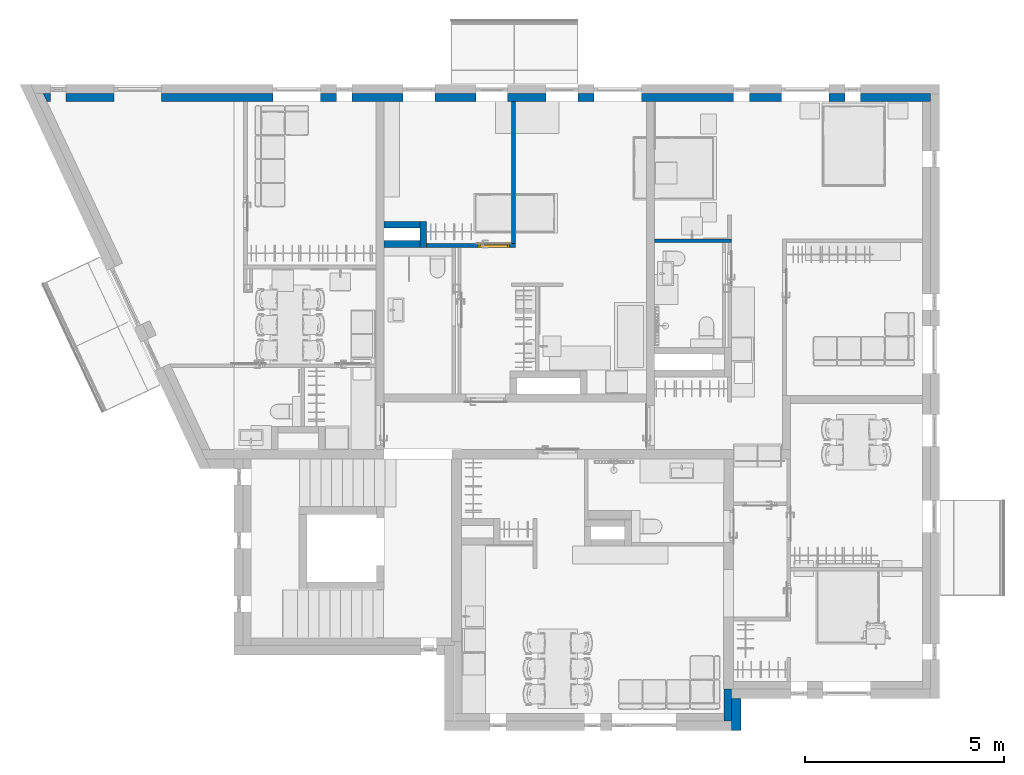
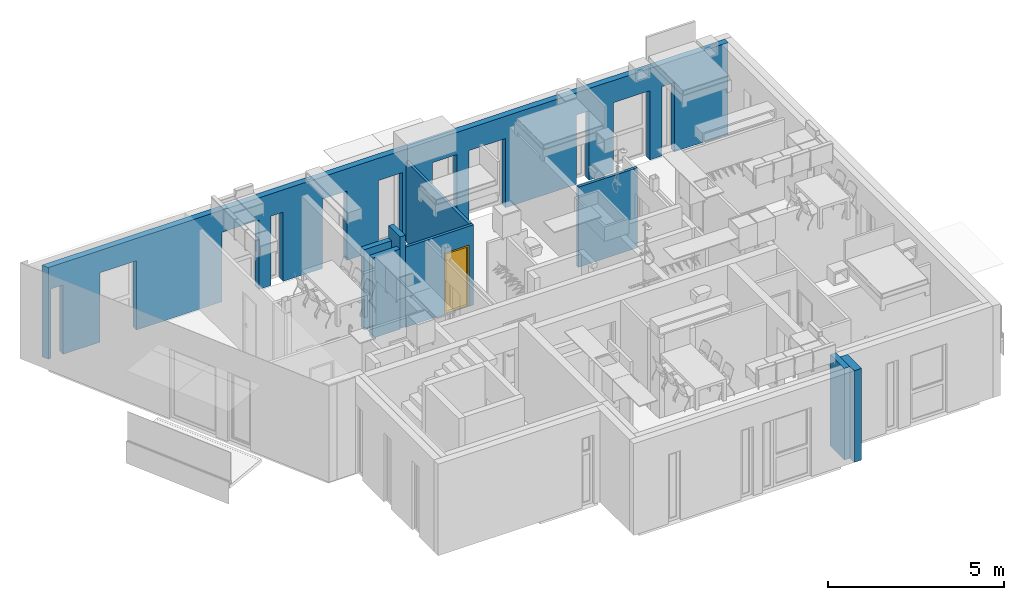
# One storey, part 6 of 68: 9 walls, 1 door, 12 openings.
"""IFC2X3 building model written with IfcOpenShell, lengths in millimetres."""

from ifc_helpers import new_model, entity, si_unit, converted_unit, direction, frame, frame_2d, origin, place, context, subcontext, project, spatial, polyline, rectangle, outline, extrude, clip, bounded_halfspace, faceted_brep, source, transform, mapped, material, layer, layer_set, layer_usage, type_object, type_shapes, element, fill, save


model = new_model("IFC2X3")

# Units and contexts
model_context = context("Model", 3, precision=0.01, world=origin(), true_north=direction((6.123233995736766e-17, 1.0)))
plan_context = context("Plan", 3, precision=0.01, world=origin(), true_north=direction((6.123233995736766e-17, 1.0)))
body_context = subcontext(model_context, "Body", "Model", "MODEL_VIEW")
ifc_project = project(units=[si_unit("LENGTHUNIT", "METRE", prefix="MILLI"), converted_unit("PLANEANGLEUNIT", "DEGREE", entity("IfcPlaneAngleMeasure", 0.017453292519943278), si_unit("PLANEANGLEUNIT", "RADIAN"), dimensions=[0, 0, 0, 0, 0, 0, 0]), si_unit("AREAUNIT", "SQUARE_METRE")], contexts=[model_context, plan_context])

# Site, building, storey
site_placement = place(None, origin())
site = spatial("IfcSite", under=ifc_project, at=site_placement, Name="Default", CompositionType="ELEMENT")
building_placement = place(site_placement, origin())
building = spatial("IfcBuilding", under=site, at=building_placement, CompositionType="ELEMENT")
storey_placement = place(building_placement, frame((0.0, 0.0, 6295.0)))
storey = spatial("IfcBuildingStorey", under=building, at=storey_placement, Name="3K", CompositionType="ELEMENT", Elevation=6294.999999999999)

# Wall, openings
ifc_material_1 = material(Name="_K. Väisviimistlus. Krohv. Valge")
ifc_layer_1 = layer(ifc_material_1, 5.0)
ifc_material_2 = material(Name="_K. Müüritis. Väikeplokk. Betoon-õõnesplokk")
ifc_layer_2 = layer(ifc_material_2, 190.00000000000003)
ifc_layer_3 = layer(ifc_material_1, 5.0)
ifc_layer_set_1 = layer_set([ifc_layer_1, ifc_layer_2, ifc_layer_3], Name="Basic Wall:SS-01. 190")
ifc_layer_usage_1 = layer_usage(ifc_layer_set_1, "AXIS2", "NEGATIVE", 100.00000000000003)
wall_type_1 = type_object("IfcWallType", Name="Basic Wall:SS-01. 190", PredefinedType="STANDARD", material=ifc_layer_set_1)
wall_1_placement = place(storey_placement, frame((-5235.819995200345, 15500.0, 0.0)))
wall_1 = element("IfcWallStandardCase", 1, at=wall_1_placement, inside=storey, type_object=wall_type_1, material=ifc_layer_usage_1, Name="Basic Wall:SS-01. 190", ObjectType="Basic Wall:SS-01. 190", context=body_context, shape_type="SweptSolid", body=[
    extrude(outline(polyline([(93.74999994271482, -100.0), (22135.819995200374, -100.0), (22335.81999520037, -100.0), (22335.81999520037, 100.0), (0.0, 100.0), (93.74999994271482, -100.0)])), origin(), (0.0, 0.0, 1.0), 3170.000076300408),
])
opening_1_placement = place(wall_1_placement, frame((5235.819995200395, -15500.0, 0.0)))
element("IfcOpeningElement", 2, at=opening_1_placement, cuts=wall_1, Name="Basic Wall:SS-01. 190", ObjectType="Opening", context=body_context, shape_type="Brep", body=[
    faceted_brep([(-2255.0, 15850.0, 2400.0), (-2255.0, 15156.0, 2400.0), (-2255.0, 15156.0, 0.0), (-2255.0, 15740.0, 0.0), (-2255.0, 15750.0, 0.0), (-2255.0, 15850.0, 0.0), (-3455.0, 15850.0, 2400.0), (-3455.0, 15156.0, 2400.0), (-3455.0, 15850.0, 0.0), (-3455.0, 15750.0, 0.0), (-3455.0, 15740.0, 0.0), (-3455.0, 15156.0, 0.0)], [[[0, 1, 2, 3, 4, 5]], [[6, 7, 1, 0]], [[8, 9, 10, 11, 7, 6]], [[5, 4, 3, 2, 11, 10, 9, 8]], [[6, 0, 5, 8]], [[7, 11, 2, 1]]]),
])
opening_2_placement = place(wall_1_placement, frame((5235.819995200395, -15500.0, 0.0)))
element("IfcOpeningElement", 3, at=opening_2_placement, cuts=wall_1, Name="Basic Wall:SS-01. 190", ObjectType="Opening", context=body_context, shape_type="Brep", body=[
    faceted_brep([(1745.0, 15850.0, 2400.0), (1745.0, 15156.0, 2400.0), (1745.0, 15156.0, 0.0), (1745.0, 15740.0, 0.0), (1745.0, 15750.0, 0.0), (1745.0, 15850.0, 0.0), (545.0, 15850.0, 2400.0), (545.0, 15156.0, 2400.0), (545.0, 15850.0, 0.0), (545.0, 15750.0, 0.0), (545.0, 15740.0, 0.0), (545.0, 15156.0, 0.0)], [[[0, 1, 2, 3, 4, 5]], [[6, 7, 1, 0]], [[8, 9, 10, 11, 7, 6]], [[5, 4, 3, 2, 11, 10, 9, 8]], [[6, 0, 5, 8]], [[7, 11, 2, 1]]]),
])
opening_3_placement = place(wall_1_placement, frame((5235.819995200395, -15500.0, 0.0)))
element("IfcOpeningElement", 4, at=opening_3_placement, cuts=wall_1, Name="Basic Wall:SS-01. 190", ObjectType="Opening", context=body_context, shape_type="Brep", body=[
    faceted_brep([(4625.0, 15850.0, 2400.0), (4625.0, 15156.0, 2400.0), (4625.0, 15156.0, 0.0), (4625.0, 15740.0, 0.0), (4625.0, 15750.0, 0.0), (4625.0, 15850.0, 0.0), (3825.0, 15850.0, 2400.0), (3825.0, 15156.0, 2400.0), (3825.0, 15850.0, 0.0), (3825.0, 15750.0, 0.0), (3825.0, 15740.0, 0.0), (3825.0, 15156.0, 0.0)], [[[0, 1, 2, 3, 4, 5]], [[6, 7, 1, 0]], [[8, 9, 10, 11, 7, 6]], [[5, 4, 3, 2, 11, 10, 9, 8]], [[6, 0, 5, 8]], [[7, 11, 2, 1]]]),
])
opening_4_placement = place(wall_1_placement, frame((5235.819995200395, -15500.0, 0.0)))
element("IfcOpeningElement", 5, at=opening_4_placement, cuts=wall_1, Name="Basic Wall:SS-01. 190", ObjectType="Opening", context=body_context, shape_type="Brep", body=[
    faceted_brep([(6455.0, 15850.0, 2400.0), (6455.0, 15156.0, 2400.0), (6455.0, 15156.0, 0.0), (6455.0, 15740.0, 0.0), (6455.0, 15750.0, 0.0), (6455.0, 15850.0, 0.0), (5655.0, 15850.0, 2400.0), (5655.0, 15156.0, 2400.0), (5655.0, 15850.0, 0.0), (5655.0, 15750.0, 0.0), (5655.0, 15740.0, 0.0), (5655.0, 15156.0, 0.0)], [[[0, 1, 2, 3, 4, 5]], [[6, 7, 1, 0]], [[8, 9, 10, 11, 7, 6]], [[5, 4, 3, 2, 11, 10, 9, 8]], [[6, 0, 5, 8]], [[7, 11, 2, 1]]]),
])
opening_5_placement = place(wall_1_placement, frame((5235.819995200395, -15500.0, 0.0)))
element("IfcOpeningElement", 6, at=opening_5_placement, cuts=wall_1, Name="Basic Wall:SS-01. 190", ObjectType="Opening", context=body_context, shape_type="Brep", body=[
    faceted_brep([(8225.0, 15850.0, 2400.0), (8225.0, 15156.0, 2400.0), (8225.0, 15156.0, 0.0), (8225.0, 15740.0, 0.0), (8225.0, 15750.0, 0.0), (8225.0, 15850.0, 0.0), (7425.0, 15850.0, 2400.0), (7425.0, 15156.0, 2400.0), (7425.0, 15850.0, 0.0), (7425.0, 15750.0, 0.0), (7425.0, 15740.0, 0.0), (7425.0, 15156.0, 0.0)], [[[0, 1, 2, 3, 4, 5]], [[6, 7, 1, 0]], [[8, 9, 10, 11, 7, 6]], [[5, 4, 3, 2, 11, 10, 9, 8]], [[6, 0, 5, 8]], [[7, 11, 2, 1]]]),
])
opening_6_placement = place(wall_1_placement, frame((5235.819995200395, -15500.0, 0.0)))
element("IfcOpeningElement", 7, at=opening_6_placement, cuts=wall_1, Name="Basic Wall:SS-01. 190", ObjectType="Opening", context=body_context, shape_type="Brep", body=[
    faceted_brep([(9825.0, 15850.0, 2400.0), (9825.0, 15156.0, 2400.0), (9825.0, 15156.0, 0.0), (9825.0, 15740.0, 0.0), (9825.0, 15750.0, 0.0), (9825.0, 15850.0, 0.0), (8625.0, 15850.0, 2400.0), (8625.0, 15156.0, 2400.0), (8625.0, 15850.0, 0.0), (8625.0, 15750.0, 0.0), (8625.0, 15740.0, 0.0), (8625.0, 15156.0, 0.0)], [[[0, 1, 2, 3, 4, 5]], [[6, 7, 1, 0]], [[8, 9, 10, 11, 7, 6]], [[5, 4, 3, 2, 11, 10, 9, 8]], [[6, 0, 5, 8]], [[7, 11, 2, 1]]]),
])
opening_7_placement = place(wall_1_placement, frame((5235.819995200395, -15500.0, 0.0)))
element("IfcOpeningElement", 8, at=opening_7_placement, cuts=wall_1, Name="Basic Wall:SS-01. 190", ObjectType="Opening", context=body_context, shape_type="Brep", body=[
    faceted_brep([(14545.0, 15850.0, 2400.0), (14545.0, 15156.0, 2400.0), (14545.0, 15156.0, 0.0), (14545.0, 15740.0, 0.0), (14545.0, 15750.0, 0.0), (14545.0, 15850.0, 0.0), (13345.0, 15850.0, 2400.0), (13345.0, 15156.0, 2400.0), (13345.0, 15850.0, 0.0), (13345.0, 15750.0, 0.0), (13345.0, 15740.0, 0.0), (13345.0, 15156.0, 0.0)], [[[0, 1, 2, 3, 4, 5]], [[6, 7, 1, 0]], [[8, 9, 10, 11, 7, 6]], [[5, 4, 3, 2, 11, 10, 9, 8]], [[6, 0, 5, 8]], [[7, 11, 2, 1]]]),
])
opening_8_placement = place(wall_1_placement, frame((5235.819995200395, -15500.0, 0.0)))
element("IfcOpeningElement", 9, at=opening_8_placement, cuts=wall_1, Name="Basic Wall:SS-01. 190", ObjectType="Opening", context=body_context, shape_type="Brep", body=[
    faceted_brep([(-4655.0, 15850.0, 2400.0), (-4655.0, 15156.0, 2400.0), (-4655.0, 15156.0, 0.0), (-4655.0, 15740.0, 0.0), (-4655.0, 15750.0, 0.0), (-4655.0, 15850.0, 0.0), (-5055.0, 15850.0, 2400.0), (-5055.0, 15156.0, 2400.0), (-5055.0, 15850.0, 0.0), (-5055.0, 15750.0, 0.0), (-5055.0, 15740.0, 0.0), (-5055.0, 15156.0, 0.0)], [[[0, 1, 2, 3, 4, 5]], [[6, 7, 1, 0]], [[8, 9, 10, 11, 7, 6]], [[5, 4, 3, 2, 11, 10, 9, 8]], [[6, 0, 5, 8]], [[7, 11, 2, 1]]]),
])
opening_9_placement = place(wall_1_placement, frame((5235.819995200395, -15500.0, 0.0)))
element("IfcOpeningElement", 10, at=opening_9_placement, cuts=wall_1, Name="Basic Wall:SS-01. 190", ObjectType="Opening", context=body_context, shape_type="Brep", body=[
    faceted_brep([(2545.0, 15850.0, 2400.0), (2545.0, 15156.0, 2400.0), (2545.0, 15156.0, 0.0), (2545.0, 15740.0, 0.0), (2545.0, 15750.0, 0.0), (2545.0, 15850.0, 0.0), (2145.0, 15850.0, 2400.0), (2145.0, 15156.0, 2400.0), (2145.0, 15850.0, 0.0), (2145.0, 15750.0, 0.0), (2145.0, 15740.0, 0.0), (2145.0, 15156.0, 0.0)], [[[0, 1, 2, 3, 4, 5]], [[6, 7, 1, 0]], [[8, 9, 10, 11, 7, 6]], [[5, 4, 3, 2, 11, 10, 9, 8]], [[6, 0, 5, 8]], [[7, 11, 2, 1]]]),
])
opening_10_placement = place(wall_1_placement, frame((5235.819995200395, -15500.0, 0.0)))
element("IfcOpeningElement", 11, at=opening_10_placement, cuts=wall_1, Name="Basic Wall:SS-01. 190", ObjectType="Opening", context=body_context, shape_type="Brep", body=[
    faceted_brep([(12545.0, 15850.0, 2400.0), (12545.0, 15156.0, 2400.0), (12545.0, 15156.0, 0.0), (12545.0, 15740.0, 0.0), (12545.0, 15750.0, 0.0), (12545.0, 15850.0, 0.0), (12145.0, 15850.0, 2400.0), (12145.0, 15156.0, 2400.0), (12145.0, 15850.0, 0.0), (12145.0, 15750.0, 0.0), (12145.0, 15740.0, 0.0), (12145.0, 15156.0, 0.0)], [[[0, 1, 2, 3, 4, 5]], [[6, 7, 1, 0]], [[8, 9, 10, 11, 7, 6]], [[5, 4, 3, 2, 11, 10, 9, 8]], [[6, 0, 5, 8]], [[7, 11, 2, 1]]]),
])
opening_11_placement = place(wall_1_placement, frame((5235.819995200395, -15500.0, 0.0)))
element("IfcOpeningElement", 12, at=opening_11_placement, cuts=wall_1, Name="Basic Wall:SS-01. 190", ObjectType="Opening", context=body_context, shape_type="Brep", body=[
    faceted_brep([(15345.0, 15850.0, 2400.0), (15345.0, 15156.0, 2400.0), (15345.0, 15156.0, 0.0), (15345.0, 15740.0, 0.0), (15345.0, 15750.0, 0.0), (15345.0, 15850.0, 0.0), (14945.0, 15850.0, 2400.0), (14945.0, 15156.0, 2400.0), (14945.0, 15850.0, 0.0), (14945.0, 15750.0, 0.0), (14945.0, 15740.0, 0.0), (14945.0, 15156.0, 0.0)], [[[0, 1, 2, 3, 4, 5]], [[6, 7, 1, 0]], [[8, 9, 10, 11, 7, 6]], [[5, 4, 3, 2, 11, 10, 9, 8]], [[6, 0, 5, 8]], [[7, 11, 2, 1]]]),
])

# Walls
ifc_layer_4 = layer(ifc_material_2, 190.00000000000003)
ifc_layer_set_2 = layer_set([ifc_layer_4], Name="Basic Wall:Columbia 190mm")
ifc_layer_usage_2 = layer_usage(ifc_layer_set_2, "AXIS2", "NEGATIVE", 95.00000000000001)
wall_type_2 = type_object("IfcWallType", Name="Basic Wall:Columbia 190mm", PredefinedType="STANDARD", material=ifc_layer_set_2)
wall_2_placement = place(storey_placement, frame((11995.0, 610.0, 0.0), z_axis=(0.0, 0.0, 1.0), x_axis=(0.0, -1.0, 0.0)))
element("IfcWallStandardCase", 13, at=wall_2_placement, inside=storey, type_object=wall_type_2, material=ifc_layer_usage_2, Name="Basic Wall:Columbia 190mm", ObjectType="Basic Wall:Columbia 190mm", context=body_context, shape_type="SweptSolid", body=[
    extrude(rectangle(XDim=799.9999999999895, YDim=190.0000000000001, at=frame_2d((399.99999999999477, 0.0), x_axis=(-1.0, 0.0))), origin(), (0.0, 0.0, 1.0), 3169.999999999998),
])
ifc_layer_5 = layer(ifc_material_1, 10.0)
ifc_material_3 = material(Name="_K. Soojustus. EPS Silver")
ifc_layer_6 = layer(ifc_material_3, 230.0)
ifc_layer_set_3 = layer_set([ifc_layer_5, ifc_layer_6], Name="Basic Wall:VS-01")
ifc_layer_usage_3 = layer_usage(ifc_layer_set_3, "AXIS2", "NEGATIVE", 120.0)
wall_type_3 = type_object("IfcWallType", Name="Basic Wall:VS-01", PredefinedType="STANDARD", material=ifc_layer_set_3)
wall_3_placement = place(storey_placement, frame((12210.0, 370.0, 0.0), z_axis=(0.0, 0.0, 1.0), x_axis=(0.0, -1.0, 0.0)))
element("IfcWallStandardCase", 14, at=wall_3_placement, inside=storey, type_object=wall_type_3, material=ifc_layer_usage_3, Name="Basic Wall:VS-01", ObjectType="Basic Wall:VS-01", context=body_context, shape_type="SweptSolid", body=[
    extrude(rectangle(XDim=799.9999999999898, YDim=240.00000000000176, at=frame_2d((399.9999999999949, 0.0), x_axis=(-1.0, 0.0))), origin(), (0.0, 0.0, 1.0), 3169.999999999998),
])
ifc_material_4 = material(Name="_K. Ehitusplaat. Kipsplaat. Erikõva")
ifc_layer_7 = layer(ifc_material_4, 13.000000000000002)
ifc_material_5 = material(Name="_K. Soojustus. Mineraalvill")
ifc_layer_8 = layer(ifc_material_5, 66.0)
ifc_layer_9 = layer(ifc_material_4, 13.000000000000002)
ifc_layer_set_4 = layer_set([ifc_layer_7, ifc_layer_8, ifc_layer_9], Name="Basic Wall:SS-401")
ifc_layer_usage_4 = layer_usage(ifc_layer_set_4, "AXIS2", "NEGATIVE", 46.00000000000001)
wall_type_4 = type_object("IfcWallType", Name="Basic Wall:SS-401", PredefinedType="STANDARD", material=ifc_layer_set_4)
wall_4_placement = place(storey_placement, frame((10150.0, 11894.0, -20.0)))
element("IfcWallStandardCase", 15, at=wall_4_placement, inside=storey, type_object=wall_type_4, material=ifc_layer_usage_4, Name="Basic Wall:SS-401", ObjectType="Basic Wall:SS-401", context=body_context, shape_type="SweptSolid", body=[
    extrude(rectangle(XDim=1938.0000000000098, YDim=92.00000000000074, at=frame_2d((969.0000000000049, 4.263256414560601e-14), x_axis=(-1.0, 0.0))), origin(), (0.0, 0.0, 1.0), 2769.999999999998),
])

# Wall, opening, door
ifc_layer_usage_5 = layer_usage(ifc_layer_set_4, "AXIS2", "NEGATIVE", 46.00000000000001)
wall_5_placement = place(storey_placement, frame((4420.0, 11776.0, -20.0)))
wall_5 = element("IfcWallStandardCase", 16, at=wall_5_placement, inside=storey, type_object=wall_type_4, material=ifc_layer_usage_5, Name="Basic Wall:SS-401", ObjectType="Basic Wall:SS-401", context=body_context, shape_type="SweptSolid", body=[
    extrude(rectangle(XDim=2229.999999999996, YDim=91.99999999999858, at=frame_2d((1114.9999999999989, 5.968558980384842e-13), x_axis=(-1.0, 0.0))), origin(), (0.0, 0.0, 1.0), 2769.999999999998),
])
opening_12_placement = place(wall_5_placement, frame((-4420.0, -11776.0, 20.0)))
opening_12 = element("IfcOpeningElement", 17, at=opening_12_placement, cuts=wall_5, Name="Basic Wall:SS-401", ObjectType="Opening", context=body_context, shape_type="Brep", body=[
    faceted_brep([(6508.0, 10730.0, 2100.0), (5708.0, 10730.0, 2100.0), (5708.0, 10730.0, 0.0), (6508.0, 10730.0, 0.0), (6508.0, 12822.0, 0.0), (6508.0, 12822.0, 2100.0), (5708.0, 12822.0, 0.0), (5708.0, 12822.0, 2100.0)], [[[0, 1, 2, 3]], [[3, 4, 5, 0]], [[2, 6, 4, 3]], [[1, 7, 6, 2]], [[5, 7, 1, 0]], [[7, 5, 4, 6]]]),
])
ifc_material_6 = material(Name="_K. Puit. Peitsitud ja lakitud")
door_style = type_object("IfcDoorStyle", Name="HR_Generic_Hinged_Single:Default. Manteluks lävepakuga. 800 x 2100 mm. Left", ConstructionType="NOTDEFINED", OperationType="NOTDEFINED", ParameterTakesPrecedence=False, Sizeable=False, material=ifc_material_6)
shared_shape = source(origin(), body_context, "Body", "Brep", [
    faceted_brep([(765.0, -1000.0, 20.0), (35.0, -1000.0, 20.0), (35.0, -1030.0, 20.0), (50.0, -1030.0, 20.0), (50.0, -1092.0, 20.0), (750.0, -1092.0, 20.0), (750.0, -1030.0, 20.0), (765.0, -1030.0, 20.0), (35.0, -1000.0, 0.0), (765.0, -1000.0, 0.0), (765.0, -1030.0, 0.0), (750.0, -1030.0, 0.0), (750.0, -1092.0, 0.0), (50.0, -1092.0, 0.0), (50.0, -1030.0, 0.0), (35.0, -1030.0, 0.0)], [[[0, 1, 2, 3, 4, 5, 6, 7]], [[8, 9, 10, 11, 12, 13, 14, 15]], [[1, 0, 9, 8]], [[5, 4, 13, 12]], [[2, 1, 8, 15]], [[0, 7, 10, 9]], [[3, 14, 13, 4]], [[14, 3, 2, 15]], [[6, 11, 10, 7]], [[11, 6, 5, 12]]]),
    faceted_brep([(37.0, -1030.0, 2060.0), (37.0, -1030.0, 25.0), (763.0, -1030.0, 25.0), (763.0, -1030.0, 2060.0), (27.0, -990.0, 25.0), (27.0, -990.0, 2070.0), (773.0, -990.0, 2070.0), (773.0, -990.0, 25.0), (37.0, -1000.0, 2060.0), (37.0, -1000.0, 25.0), (27.0, -1000.0, 25.0), (773.0, -1000.0, 25.0), (763.0, -1000.0, 25.0), (763.0, -1000.0, 2060.0), (27.0, -1000.0, 2070.0), (773.0, -1000.0, 2070.0)], [[[0, 1, 2, 3]], [[4, 5, 6, 7]], [[1, 0, 8, 9]], [[2, 1, 9, 10, 4, 7, 11, 12]], [[3, 2, 12, 13]], [[0, 3, 13, 8]], [[14, 10, 9, 8, 13, 12, 11, 15]], [[6, 5, 14, 15]], [[7, 6, 15, 11]], [[5, 4, 10, 14]]]),
    faceted_brep([(800.0, -1092.0, 0.0), (750.0, -1092.0, 0.0), (750.0, -1030.0, 0.0), (765.0, -1030.0, 0.0), (765.0, -1000.0, 0.0), (800.0, -1000.0, 0.0), (800.0, -1092.0, 2100.0), (0.0, -1092.0, 2100.0), (0.0, -1092.0, 0.0), (50.0, -1092.0, 0.0), (50.0, -1092.0, 2050.0), (750.0, -1092.0, 2050.0), (750.0, -1030.0, 2050.0), (35.0, -1030.0, 2065.0), (765.0, -1030.0, 2065.0), (50.0, -1030.0, 2050.0), (50.0, -1030.0, 0.0), (35.0, -1030.0, 0.0), (765.0, -1000.0, 2065.0), (0.0, -1000.0, 0.0), (0.0, -1000.0, 2100.0), (800.0, -1000.0, 2100.0), (35.0, -1000.0, 2065.0), (35.0, -1000.0, 0.0)], [[[0, 1, 2, 3, 4, 5]], [[1, 0, 6, 7, 8, 9, 10, 11]], [[1, 11, 12, 2]], [[13, 14, 3, 2, 12, 15, 16, 17]], [[3, 14, 18, 4]], [[19, 20, 21, 5, 4, 18, 22, 23]], [[0, 5, 21, 6]], [[8, 19, 23, 17, 16, 9]], [[19, 8, 7, 20]], [[13, 17, 23, 22]], [[10, 9, 16, 15]], [[7, 6, 21, 20]], [[11, 10, 15, 12]], [[14, 13, 22, 18]]]),
])
type_shapes(door_style, [shared_shape])
door_placement = place(opening_12_placement, frame((5708.0, 12822.0, 0.0)))
door = element("IfcDoor", 18, at=door_placement, inside=storey, type_object=door_style, material=ifc_material_6, Name="HR_Generic_Hinged_Single:Default. Manteluks lävepakuga. 800 x 2100 mm. Left", ObjectType="HR_Generic_Hinged_Single:Default. Manteluks lävepakuga. 800 x 2100 mm. Left", OverallHeight=2130.000000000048, OverallWidth=860.0000000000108, context=body_context, shape_type="MappedRepresentation", body=[
    mapped(shared_shape, transform((0.0, 0.0, 0.0), scale=1.0)),
])
fill(opening_12, door)

# Walls
ifc_layer_usage_6 = layer_usage(ifc_layer_set_4, "AXIS2", "NEGATIVE", 46.00000000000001)
wall_6_placement = place(storey_placement, frame((6604.0, 11822.0, -20.0), z_axis=(0.0, 0.0, 1.0), x_axis=(0.0, 1.0, 0.0)))
element("IfcWallStandardCase", 19, at=wall_6_placement, inside=storey, type_object=wall_type_4, material=ifc_layer_usage_6, Name="Basic Wall:SS-401", ObjectType="Basic Wall:SS-401", context=body_context, shape_type="SweptSolid", body=[
    extrude(rectangle(XDim=3577.9999999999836, YDim=92.00000000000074, at=frame_2d((1788.9999999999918, 2.8066438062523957e-13), x_axis=(-1.0, 0.0))), origin(), (0.0, 0.0, 1.0), 2769.999999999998),
])
ifc_layer_10 = layer(ifc_material_1, 10.0)
ifc_material_7 = material(Name="_K. Müüritis. Väikeplokk. Kergkruusplokk")
ifc_layer_11 = layer(ifc_material_7, 150.0)
ifc_layer_12 = layer(ifc_material_1, 10.0)
ifc_layer_set_5 = layer_set([ifc_layer_10, ifc_layer_11, ifc_layer_12], Name="Basic Wall:SS-03. Šahti sein")
ifc_layer_usage_7 = layer_usage(ifc_layer_set_5, "AXIS2", "NEGATIVE", 85.00000000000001)
wall_type_5 = type_object("IfcWallType", Name="Basic Wall:SS-03. Šahti sein", PredefinedType="STANDARD", material=ifc_layer_set_5)
wall_7_placement = place(storey_placement, frame((3344.993534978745, 12295.0, -20.0)))
element("IfcWallStandardCase", 20, at=wall_7_placement, inside=storey, type_object=wall_type_5, material=ifc_layer_usage_7, Name="Basic Wall:SS-03. Šahti sein", ObjectType="Basic Wall:SS-03. Šahti sein", context=body_context, shape_type="Clipping", body=[
    clip(extrude(rectangle(XDim=905.0064650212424, YDim=170.00000000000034, at=frame_2d((452.5032325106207, -7.105427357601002e-13), x_axis=(-1.0, 0.0))), origin(), (0.0, 0.0, 1.0), 2770.000076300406), bounded_halfspace(frame((905.0064650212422, -85.0, 0.0), z_axis=(0.0, 0.0, 1.0), x_axis=(0.0, 1.0, 0.0)), True, frame((905.0064650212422, -85.0, 0.0), z_axis=(0.0, 0.0, 1.0), x_axis=(0.0, 1.0, 0.0)), polyline([(0.0, 0.0), (170.0, 0.0), (170.0, 905.0064650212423), (0.0, 905.0064650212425), (0.0, 900.0), (0.0, 0.0)]))),
])
ifc_layer_usage_8 = layer_usage(ifc_layer_set_5, "AXIS2", "NEGATIVE", 85.00000000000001)
wall_8_placement = place(storey_placement, frame((4335.0, 12380.0, 0.0), z_axis=(0.0, 0.0, 1.0), x_axis=(0.0, -1.0, 0.0)))
element("IfcWallStandardCase", 21, at=wall_8_placement, inside=storey, type_object=wall_type_5, material=ifc_layer_usage_8, Name="Basic Wall:SS-03. Šahti sein", ObjectType="Basic Wall:SS-03. Šahti sein", context=body_context, shape_type="SweptSolid", body=[
    extrude(rectangle(XDim=650.000000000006, YDim=170.00000000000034, at=frame_2d((325.000000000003, -9.947598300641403e-14), x_axis=(-1.0, 0.0))), origin(), (0.0, 0.0, 1.0), 3169.999999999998),
])
ifc_layer_usage_9 = layer_usage(ifc_layer_set_5, "AXIS2", "POSITIVE", -85.00000000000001)
wall_9_placement = place(storey_placement, frame((3344.9935349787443, 11815.0, -20.0)))
element("IfcWallStandardCase", 22, at=wall_9_placement, inside=storey, type_object=wall_type_5, material=ifc_layer_usage_9, Name="Basic Wall:SS-03. Šahti sein", ObjectType="Basic Wall:SS-03. Šahti sein", context=body_context, shape_type="Clipping", body=[
    clip(extrude(rectangle(XDim=905.0064650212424, YDim=170.00000000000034, at=frame_2d((452.5032325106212, 1.7763568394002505e-13), x_axis=(-1.0, 0.0))), origin(), (0.0, 0.0, 1.0), 2770.000076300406), bounded_halfspace(frame((905.0064650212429, -85.0, 0.0), z_axis=(0.0, 0.0, 1.0), x_axis=(0.0, 1.0, 0.0)), True, frame((905.0064650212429, -85.0, 0.0), z_axis=(0.0, 0.0, 1.0), x_axis=(0.0, 1.0, 0.0)), polyline([(0.0, 0.0), (170.0, 0.0), (170.0, 900.0), (170.0, 905.0064650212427), (0.0, 905.0064650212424), (0.0, 0.0)]))),
])

save(model, "model.ifc")
